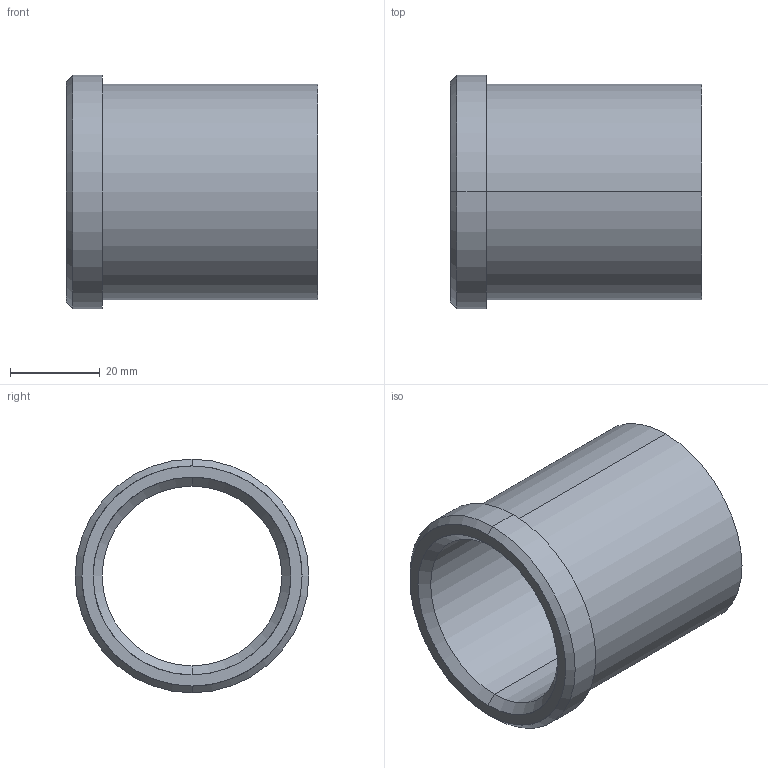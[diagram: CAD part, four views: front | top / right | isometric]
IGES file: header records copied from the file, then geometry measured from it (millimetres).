
Start section: START RECORD GO HERE.
Global section: file name: 353-40X56.igs; native system: DASSAULT SYSTEMES CATIA V5 R20 - www.3ds.com; preprocessor: CATIA Version 5 Release 20 ; author: Utente; organization: NB04-ASUS; date: 20210513.202617; units: millimetre
Bounding box: 56 x 52 x 52 mm (x, y, z)
Surface area: 16921.9 mm2 (no closed solid volume)
Topology: 0 solids, 0 shells, 15 faces, 96 edges, 96 vertices
Faces by surface type: revolution 12, plane 3
